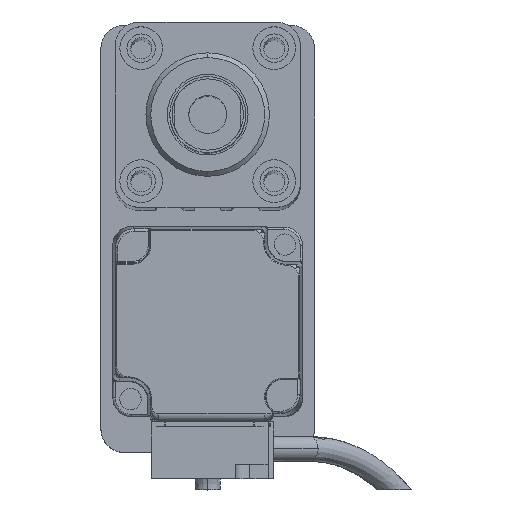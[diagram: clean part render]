
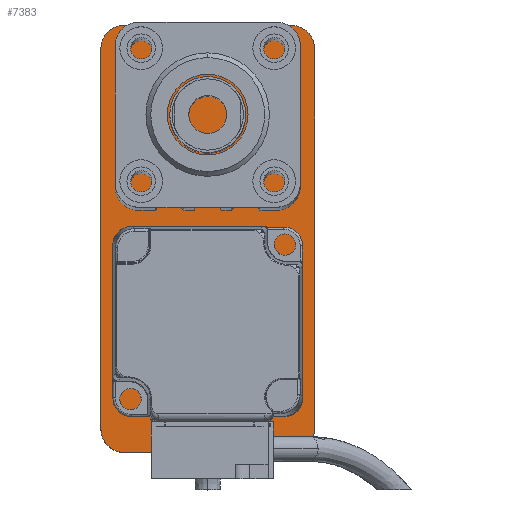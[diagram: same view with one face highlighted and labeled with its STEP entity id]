
A CAD part, top view. The second image highlights one B-rep face of the part: STEP entity #7383.
In plain terms, the highlighted planar face has unit normal (0, 0, 1).
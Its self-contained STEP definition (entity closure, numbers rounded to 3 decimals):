
#440 = VECTOR ( 'NONE', #26474, 1000. ) ;
#638 = EDGE_CURVE ( 'NONE', #10214, #14510, #9106, .T. ) ;
#999 = CARTESIAN_POINT ( 'NONE',  ( -22.5, -40., 10. ) ) ;
#1938 = DIRECTION ( 'NONE',  ( -1., 0., 0. ) ) ;
#2263 = LINE ( 'NONE', #6645, #17838 ) ;
#3119 = CARTESIAN_POINT ( 'NONE',  ( -22.5, 40., 10. ) ) ;
#3120 = CARTESIAN_POINT ( 'NONE',  ( -17.5, 45., 10. ) ) ;
#4252 = CARTESIAN_POINT ( 'NONE',  ( -17.5, 40., 10. ) ) ;
#4346 = DIRECTION ( 'NONE',  ( 1., 0., 0. ) ) ;
#5291 = CIRCLE ( 'NONE', #18578, 5. ) ;
#5521 = DIRECTION ( 'NONE',  ( 1., 0., 0. ) ) ;
#5557 = AXIS2_PLACEMENT_3D ( 'NONE', #4252, #25164, #8818 ) ;
#5565 = CARTESIAN_POINT ( 'NONE',  ( -22.5, -45., 10. ) ) ;
#6645 = CARTESIAN_POINT ( 'NONE',  ( 22.5, -45., 10. ) ) ;
#6982 = EDGE_CURVE ( 'NONE', #10855, #10877, #15630, .T. ) ;
#7383 = ADVANCED_FACE ( 'NONE', ( #22505 ), #14505, .T. ) ;
#7488 = DIRECTION ( 'NONE',  ( 1., 0., 0. ) ) ;
#7743 = DIRECTION ( 'NONE',  ( 1., 0., 0. ) ) ;
#8109 = ORIENTED_EDGE ( 'NONE', *, *, #12899, .T. ) ;
#8818 = DIRECTION ( 'NONE',  ( 1., 0., 0. ) ) ;
#9106 = CIRCLE ( 'NONE', #28439, 5. ) ;
#9795 = EDGE_CURVE ( 'NONE', #11361, #27059, #15143, .T. ) ;
#9802 = VERTEX_POINT ( 'NONE', #22380 ) ;
#9823 = CARTESIAN_POINT ( 'NONE',  ( -17.5, -40., 10. ) ) ;
#10175 = DIRECTION ( 'NONE',  ( 0., 0., 1. ) ) ;
#10214 = VERTEX_POINT ( 'NONE', #28310 ) ;
#10855 = VERTEX_POINT ( 'NONE', #3119 ) ;
#10877 = VERTEX_POINT ( 'NONE', #999 ) ;
#10960 = AXIS2_PLACEMENT_3D ( 'NONE', #23914, #21320, #7743 ) ;
#11181 = CARTESIAN_POINT ( 'NONE',  ( 22.5, -40., 10. ) ) ;
#11361 = VERTEX_POINT ( 'NONE', #29144 ) ;
#11368 = VECTOR ( 'NONE', #24260, 1000. ) ;
#11754 = ORIENTED_EDGE ( 'NONE', *, *, #18710, .T. ) ;
#11917 = EDGE_CURVE ( 'NONE', #9802, #10214, #23652, .T. ) ;
#12146 = DIRECTION ( 'NONE',  ( 0., 0., 1. ) ) ;
#12899 = EDGE_CURVE ( 'NONE', #10877, #9802, #13475, .T. ) ;
#13226 = EDGE_CURVE ( 'NONE', #14510, #15185, #2263, .T. ) ;
#13475 = CIRCLE ( 'NONE', #25236, 5. ) ;
#14505 = PLANE ( 'NONE',  #10960 ) ;
#14510 = VERTEX_POINT ( 'NONE', #11181 ) ;
#14902 = CARTESIAN_POINT ( 'NONE',  ( 17.5, 40., 10. ) ) ;
#15143 = LINE ( 'NONE', #17741, #22388 ) ;
#15185 = VERTEX_POINT ( 'NONE', #26561 ) ;
#15630 = LINE ( 'NONE', #5565, #440 ) ;
#16266 = CARTESIAN_POINT ( 'NONE',  ( 17.5, -40., 10. ) ) ;
#16282 = EDGE_CURVE ( 'NONE', #27059, #10855, #16601, .T. ) ;
#16601 = CIRCLE ( 'NONE', #5557, 5. ) ;
#17741 = CARTESIAN_POINT ( 'NONE',  ( 22.5, 45., 10. ) ) ;
#17838 = VECTOR ( 'NONE', #20725, 1000. ) ;
#18578 = AXIS2_PLACEMENT_3D ( 'NONE', #14902, #10175, #5521 ) ;
#18710 = EDGE_CURVE ( 'NONE', #15185, #11361, #5291, .T. ) ;
#18911 = EDGE_LOOP ( 'NONE', ( #29711, #11754, #24995, #25253, #24034, #8109, #25353, #25696 ) ) ;
#20725 = DIRECTION ( 'NONE',  ( 0., 1., 0. ) ) ;
#21320 = DIRECTION ( 'NONE',  ( 0., 0., 1. ) ) ;
#21979 = CARTESIAN_POINT ( 'NONE',  ( 22.5, -45., 10. ) ) ;
#22380 = CARTESIAN_POINT ( 'NONE',  ( -17.5, -45., 10. ) ) ;
#22388 = VECTOR ( 'NONE', #1938, 1000. ) ;
#22505 = FACE_OUTER_BOUND ( 'NONE', #18911, .T. ) ;
#23652 = LINE ( 'NONE', #21979, #11368 ) ;
#23914 = CARTESIAN_POINT ( 'NONE',  ( 0., 0., 10. ) ) ;
#24034 = ORIENTED_EDGE ( 'NONE', *, *, #6982, .T. ) ;
#24260 = DIRECTION ( 'NONE',  ( 1., 0., 0. ) ) ;
#24995 = ORIENTED_EDGE ( 'NONE', *, *, #9795, .T. ) ;
#25164 = DIRECTION ( 'NONE',  ( 0., 0., 1. ) ) ;
#25236 = AXIS2_PLACEMENT_3D ( 'NONE', #9823, #12146, #7488 ) ;
#25253 = ORIENTED_EDGE ( 'NONE', *, *, #16282, .T. ) ;
#25353 = ORIENTED_EDGE ( 'NONE', *, *, #11917, .T. ) ;
#25543 = DIRECTION ( 'NONE',  ( 0., 0., 1. ) ) ;
#25696 = ORIENTED_EDGE ( 'NONE', *, *, #638, .T. ) ;
#26474 = DIRECTION ( 'NONE',  ( 0., -1., 0. ) ) ;
#26561 = CARTESIAN_POINT ( 'NONE',  ( 22.5, 40., 10. ) ) ;
#27059 = VERTEX_POINT ( 'NONE', #3120 ) ;
#28310 = CARTESIAN_POINT ( 'NONE',  ( 17.5, -45., 10. ) ) ;
#28439 = AXIS2_PLACEMENT_3D ( 'NONE', #16266, #25543, #4346 ) ;
#29144 = CARTESIAN_POINT ( 'NONE',  ( 17.5, 45., 10. ) ) ;
#29711 = ORIENTED_EDGE ( 'NONE', *, *, #13226, .T. ) ;
